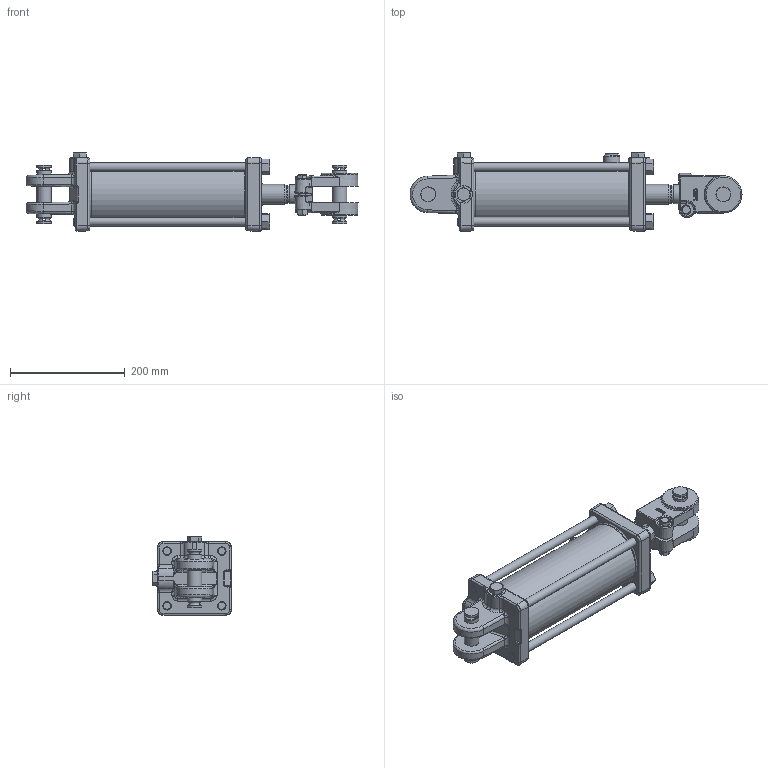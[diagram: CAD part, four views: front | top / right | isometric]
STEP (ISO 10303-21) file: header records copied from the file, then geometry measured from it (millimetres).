
FILE_DESCRIPTION((''),'2;1');
FILE_NAME('\\SRVR-ENG\EngSales\PMS-AM-2550A.stp','2012-05-17T07:51:07',('KneiflD'),(''),'Autodesk Inventor 2012','Autodesk Inventor 2012','');
FILE_SCHEMA(('AUTOMOTIVE_DESIGN { 1 0 10303 214 1 1 1 1 }'));
Length unit declared in the file: inch
Products named in the file (28): PMS-AM-2550A; 061900579; 051900620; 200300181V; 1419005SFV; 081900374V; 081900375V; 210700077V; 010700696; 100000577V; 100000576V; 170002105; 220000223V; 071900412V; 220000210V; 240064400V; 240061240V; 240000240V; 240011105V; 240000028V; 250014137V; 240020185V; 200300104V; 200300040V; 190400004V; 170301133; 220000107V
Assembly tree (35 placements, depth 3):
  PMS-AM-2550A
    061900579
      051900620
      200300181V
    1419005SFV
    081900374V
      081900375V
      210700077V
    010700696
    100000577V
      100000576V
      170002105
      220000223V
    071900412V
    220000210V
    240064400V
    240061240V  x2
    240000240V  x2
    240011105V
    240000028V
    250014137V
    240020185V
    200300104V
    200300040V  x3
    190400004V  x2
    170301133  x4
      170301133
      220000107V
Bounding box: 578.55 x 137.02 x 137.01 mm (x, y, z)
Volume: 2792193.8 mm3; surface area: 606133.8 mm2
Topology: 34 solids, 34 shells, 1090 faces, 2405 edges, 1384 vertices
Faces by surface type: cylinder 309, plane 264, bspline 255, cone 172, torus 55, sphere 35
Full cylindrical faces by diameter (mm): 1.575 x1, 2.769 x1, 5.156 x2, 5.159 x2, 7.938 x3, 9.347 x1, 11.113 x2, 11.906 x2, 14.351 x4, 14.529 x4, 14.834 x4, 16.272 x4, 16.764 x3, 17.066 x3, 17.501 x4, 19.05 x4, 22.352 x1, 23.825 x1, 25.349 x1, 25.4 x6, 25.476 x1, 25.781 x4, 28.575 x1, 30.556 x1, 33.147 x1, 34.9 x2, 34.925 x2, 35.077 x1, 35.878 x1, 36.551 x1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
Entity records: 35321 total; most frequent: CARTESIAN_POINT 15924, ORIENTED_EDGE 3726, DIRECTION 3707, EDGE_CURVE 1863, AXIS2_PLACEMENT_3D 1606, EDGE_LOOP 1188, VERTEX_POINT 1163, FACE_OUTER_BOUND 932
